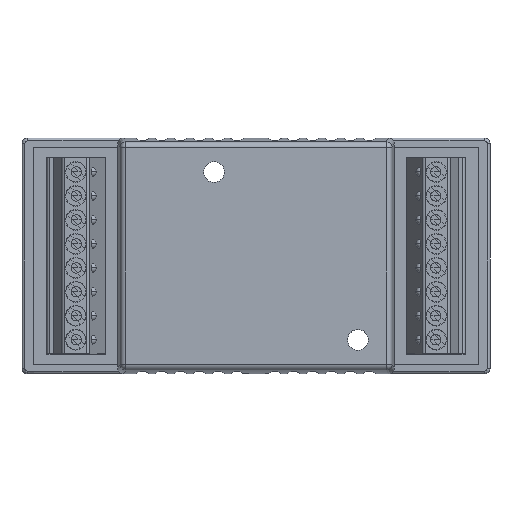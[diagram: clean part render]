
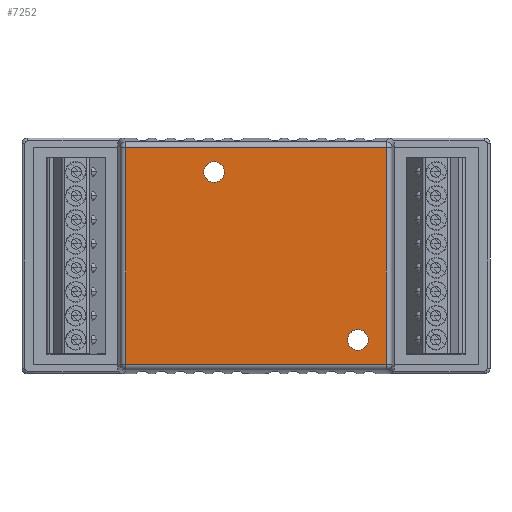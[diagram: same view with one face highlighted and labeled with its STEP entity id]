
A CAD part, top view. The second image highlights one B-rep face of the part: STEP entity #7252.
In plain terms, the highlighted planar face has unit normal (0, 0, 1).
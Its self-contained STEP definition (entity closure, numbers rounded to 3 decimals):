
#5775=CIRCLE('',#19482,1.1);
#5776=CIRCLE('',#19483,1.1);
#7252=ADVANCED_FACE('',(#8673,#8674,#8675),#8110,.T.);
#8110=PLANE('',#19484);
#8673=FACE_BOUND('',#8838,.T.);
#8674=FACE_BOUND('',#8839,.T.);
#8675=FACE_BOUND('',#8840,.T.);
#8838=EDGE_LOOP('',(#12317,#12318,#12319,#12320));
#8839=EDGE_LOOP('',(#12321));
#8840=EDGE_LOOP('',(#12322));
#9825=LINE('',#25422,#11053);
#9826=LINE('',#25425,#11054);
#9827=LINE('',#25427,#11055);
#9828=LINE('',#25429,#11056);
#11053=VECTOR('',#21034,1.);
#11054=VECTOR('',#21035,1.);
#11055=VECTOR('',#21036,1.);
#11056=VECTOR('',#21037,1.);
#12317=ORIENTED_EDGE('',*,*,#17467,.T.);
#12318=ORIENTED_EDGE('',*,*,#17468,.T.);
#12319=ORIENTED_EDGE('',*,*,#17469,.T.);
#12320=ORIENTED_EDGE('',*,*,#17470,.T.);
#12321=ORIENTED_EDGE('',*,*,#17471,.T.);
#12322=ORIENTED_EDGE('',*,*,#17472,.T.);
#16237=VERTEX_POINT('',#25423);
#16238=VERTEX_POINT('',#25424);
#16239=VERTEX_POINT('',#25426);
#16240=VERTEX_POINT('',#25428);
#16241=VERTEX_POINT('',#25431);
#16242=VERTEX_POINT('',#25433);
#17467=EDGE_CURVE('',#16237,#16238,#9825,.T.);
#17468=EDGE_CURVE('',#16238,#16239,#9826,.T.);
#17469=EDGE_CURVE('',#16239,#16240,#9827,.T.);
#17470=EDGE_CURVE('',#16240,#16237,#9828,.T.);
#17471=EDGE_CURVE('',#16241,#16241,#5775,.T.);
#17472=EDGE_CURVE('',#16242,#16242,#5776,.T.);
#19482=AXIS2_PLACEMENT_3D('',#25430,#21038,#21039);
#19483=AXIS2_PLACEMENT_3D('',#25432,#21040,#21041);
#19484=AXIS2_PLACEMENT_3D('',#25434,#21042,#21043);
#21034=DIRECTION('',(-1.,0.,0.));
#21035=DIRECTION('',(0.,-1.,0.));
#21036=DIRECTION('',(1.,0.,0.));
#21037=DIRECTION('',(0.,1.,0.));
#21038=DIRECTION('',(0.,0.,-1.));
#21039=DIRECTION('',(-1.,0.,0.));
#21040=DIRECTION('',(0.,0.,-1.));
#21041=DIRECTION('',(-1.,0.,0.));
#21042=DIRECTION('',(0.,0.,1.));
#21043=DIRECTION('',(1.,0.,0.));
#25422=CARTESIAN_POINT('',(0.,11.493,8.));
#25423=CARTESIAN_POINT('',(13.803,11.493,8.));
#25424=CARTESIAN_POINT('',(-13.803,11.493,8.));
#25425=CARTESIAN_POINT('',(-13.803,-11.348,8.));
#25426=CARTESIAN_POINT('',(-13.803,-11.493,8.));
#25427=CARTESIAN_POINT('',(0.,-11.493,8.));
#25428=CARTESIAN_POINT('',(13.803,-11.493,8.));
#25429=CARTESIAN_POINT('',(13.803,11.348,8.));
#25430=CARTESIAN_POINT('',(10.8,-8.89,8.));
#25431=CARTESIAN_POINT('',(9.7,-8.89,8.));
#25432=CARTESIAN_POINT('',(-4.44,8.89,8.));
#25433=CARTESIAN_POINT('',(-5.54,8.89,8.));
#25434=CARTESIAN_POINT('',(0.,0.,8.));
